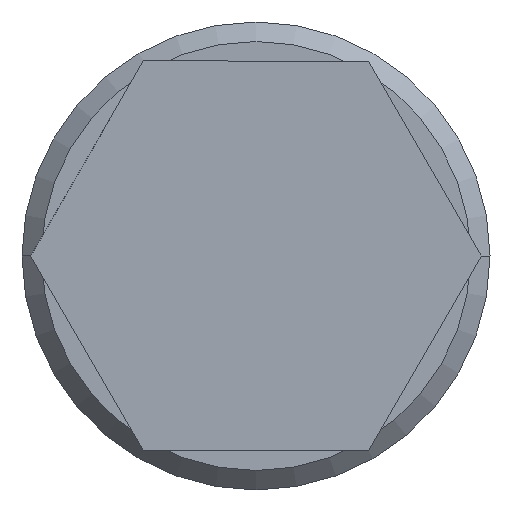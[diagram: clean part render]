
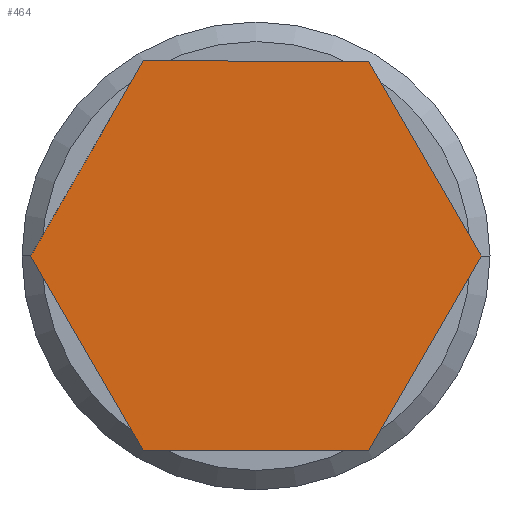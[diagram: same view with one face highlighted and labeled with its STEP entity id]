
A CAD part, left-side view. The second image highlights one B-rep face of the part: STEP entity #464.
In plain terms, the highlighted planar face has unit normal (-1, 0, 0).
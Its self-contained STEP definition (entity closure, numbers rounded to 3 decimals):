
#13 = LINE ( 'NONE', #301, #93 ) ;
#29 = CARTESIAN_POINT ( 'NONE',  ( -79., 5.775, 0. ) ) ;
#34 = VECTOR ( 'NONE', #285, 1000. ) ;
#69 = ORIENTED_EDGE ( 'NONE', *, *, #539, .F. ) ;
#93 = VECTOR ( 'NONE', #578, 1000. ) ;
#97 = DIRECTION ( 'NONE',  ( 0., -1., 0. ) ) ;
#116 = CARTESIAN_POINT ( 'NONE',  ( -79., 2.887, 5. ) ) ;
#150 = DIRECTION ( 'NONE',  ( 0., 1., 0. ) ) ;
#152 = VERTEX_POINT ( 'NONE', #29 ) ;
#156 = ORIENTED_EDGE ( 'NONE', *, *, #475, .F. ) ;
#212 = LINE ( 'NONE', #847, #34 ) ;
#213 = VERTEX_POINT ( 'NONE', #466 ) ;
#245 = LINE ( 'NONE', #314, #493 ) ;
#272 = ORIENTED_EDGE ( 'NONE', *, *, #497, .F. ) ;
#285 = DIRECTION ( 'NONE',  ( 0., 0.5, 0.866 ) ) ;
#287 = DIRECTION ( 'NONE',  ( 0., -0.5, 0.866 ) ) ;
#291 = PLANE ( 'NONE',  #773 ) ;
#301 = CARTESIAN_POINT ( 'NONE',  ( -79., -2.887, 5. ) ) ;
#314 = CARTESIAN_POINT ( 'NONE',  ( -79., -5.775, 0. ) ) ;
#339 = EDGE_CURVE ( 'NONE', #152, #684, #362, .T. ) ;
#343 = VERTEX_POINT ( 'NONE', #495 ) ;
#351 = ORIENTED_EDGE ( 'NONE', *, *, #561, .F. ) ;
#362 = LINE ( 'NONE', #440, #829 ) ;
#440 = CARTESIAN_POINT ( 'NONE',  ( -79., 5.775, 0. ) ) ;
#464 = ADVANCED_FACE ( 'NONE', ( #706 ), #291, .T. ) ;
#466 = CARTESIAN_POINT ( 'NONE',  ( -79., -2.887, -5. ) ) ;
#475 = EDGE_CURVE ( 'NONE', #213, #343, #567, .T. ) ;
#482 = CARTESIAN_POINT ( 'NONE',  ( -79., -5.775, 0. ) ) ;
#493 = VECTOR ( 'NONE', #591, 1000. ) ;
#495 = CARTESIAN_POINT ( 'NONE',  ( -79., 2.887, -5. ) ) ;
#497 = EDGE_CURVE ( 'NONE', #817, #747, #13, .T. ) ;
#527 = LINE ( 'NONE', #116, #728 ) ;
#539 = EDGE_CURVE ( 'NONE', #684, #817, #527, .T. ) ;
#545 = ORIENTED_EDGE ( 'NONE', *, *, #339, .F. ) ;
#557 = EDGE_LOOP ( 'NONE', ( #69, #545, #672, #156, #351, #272 ) ) ;
#561 = EDGE_CURVE ( 'NONE', #747, #213, #245, .T. ) ;
#567 = LINE ( 'NONE', #783, #636 ) ;
#578 = DIRECTION ( 'NONE',  ( 0., -0.5, -0.866 ) ) ;
#591 = DIRECTION ( 'NONE',  ( 0., 0.5, -0.866 ) ) ;
#636 = VECTOR ( 'NONE', #150, 1000. ) ;
#639 = DIRECTION ( 'NONE',  ( 0., 0., 1. ) ) ;
#646 = CARTESIAN_POINT ( 'NONE',  ( -79., 0., 0. ) ) ;
#672 = ORIENTED_EDGE ( 'NONE', *, *, #840, .F. ) ;
#684 = VERTEX_POINT ( 'NONE', #893 ) ;
#706 = FACE_OUTER_BOUND ( 'NONE', #557, .T. ) ;
#728 = VECTOR ( 'NONE', #97, 1000. ) ;
#747 = VERTEX_POINT ( 'NONE', #482 ) ;
#773 = AXIS2_PLACEMENT_3D ( 'NONE', #646, #863, #639 ) ;
#783 = CARTESIAN_POINT ( 'NONE',  ( -79., -2.887, -5. ) ) ;
#817 = VERTEX_POINT ( 'NONE', #917 ) ;
#829 = VECTOR ( 'NONE', #287, 1000. ) ;
#840 = EDGE_CURVE ( 'NONE', #343, #152, #212, .T. ) ;
#847 = CARTESIAN_POINT ( 'NONE',  ( -79., 2.887, -5. ) ) ;
#863 = DIRECTION ( 'NONE',  ( -1., 0., 0. ) ) ;
#893 = CARTESIAN_POINT ( 'NONE',  ( -79., 2.887, 5. ) ) ;
#917 = CARTESIAN_POINT ( 'NONE',  ( -79., -2.887, 5. ) ) ;
